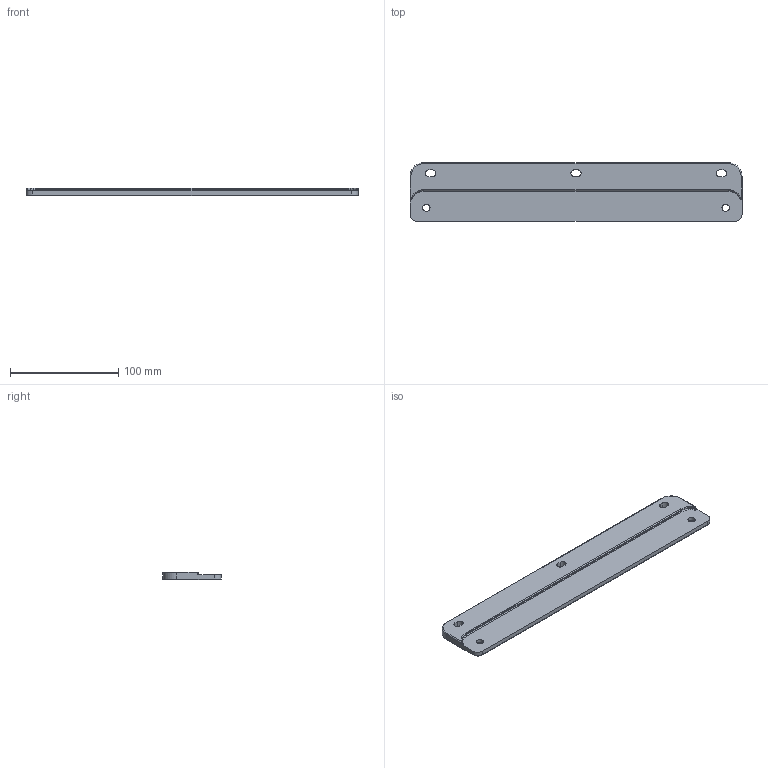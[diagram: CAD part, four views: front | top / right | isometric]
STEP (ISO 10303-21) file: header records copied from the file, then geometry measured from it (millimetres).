
FILE_DESCRIPTION (( 'STEP AP214' ), '1' );
FILE_NAME ('apolyft12.STEP', '2007-12-14T13:11:35', ( '' ), ( '' ), 'SwSTEP 2.0', 'SolidWorks 2007', '' );
FILE_SCHEMA (( 'AUTOMOTIVE_DESIGN' ));
Length unit declared in the file: inch
Products named in the file (1): apolyft12
Bounding box: 306.43 x 53.98 x 7.24 mm (x, y, z)
Volume: 95625.2 mm3; surface area: 37607.5 mm2
Topology: 1 solids, 1 shells, 62 faces, 156 edges, 94 vertices
Faces by surface type: cylinder 30, plane 14, torus 12, cone 4, sphere 2
Entity records: 1889 total; most frequent: DIRECTION 356, CARTESIAN_POINT 321, ORIENTED_EDGE 304, EDGE_CURVE 152, AXIS2_PLACEMENT_3D 143, VERTEX_POINT 92, CIRCLE 80, EDGE_LOOP 72
